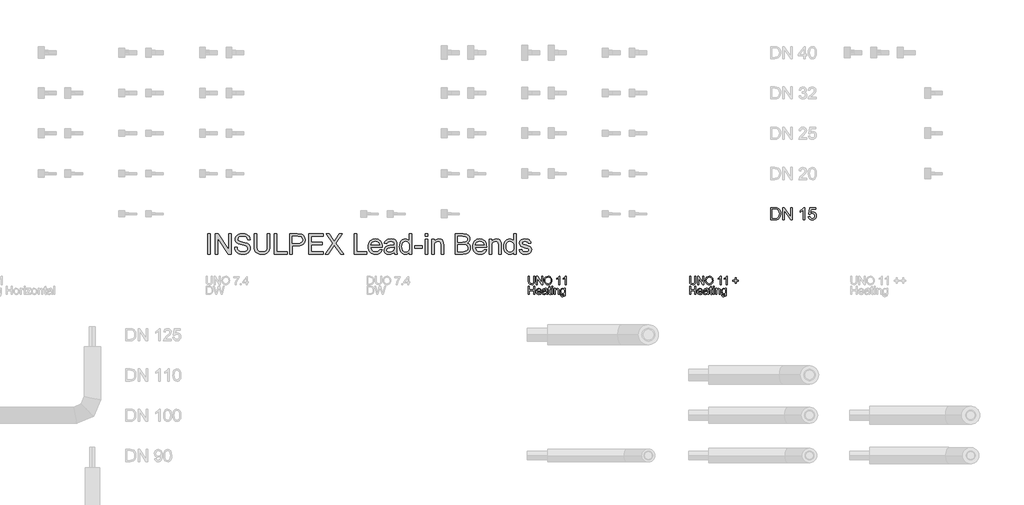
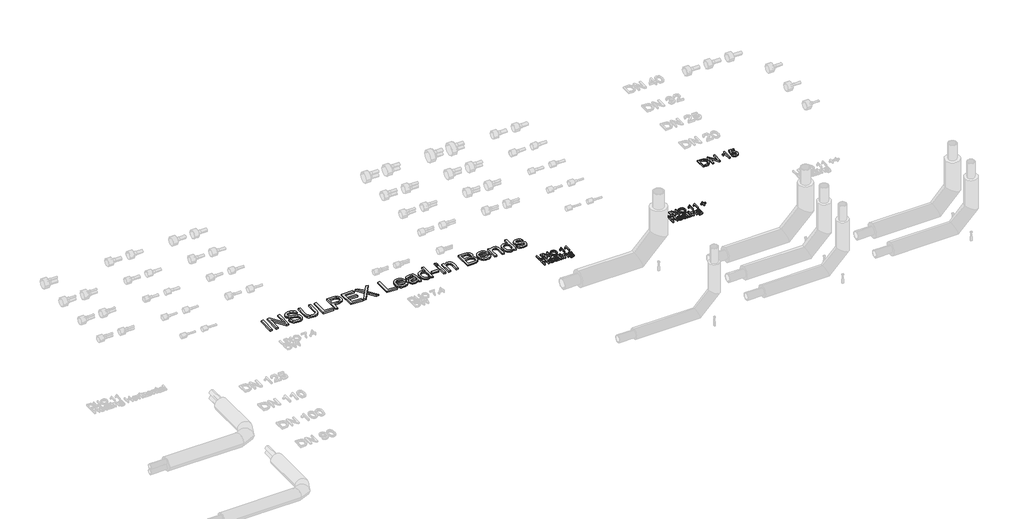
# One storey, part 21 of 44: 4 proxies.
"""IFC4 building model written with IfcOpenShell, lengths in millimetres."""

from ifc_helpers import new_model, si_unit, origin, origin_with_axes, place, context, project, spatial, polyline, outline, extrude, element, save

model = new_model("IFC4")

# Units and contexts
model_context = context("Model", 3, world=origin())
ifc_project = project(units=[si_unit("LENGTHUNIT", "METRE", prefix="MILLI")], contexts=[model_context])

# Site, building, storey
site = spatial("IfcSite", under=ifc_project)
building = spatial("IfcBuilding", under=site)
storey = spatial("IfcBuildingStorey", under=building, Name="REHAU Starting view", Elevation=0.0)

# Proxies
placement = place(None, origin())
element("IfcBuildingElementProxy", 1, Name="100", ObjectType="100", at=placement, inside=storey, context=model_context, shape_type="SweptSolid", body=[
    extrude(outline(polyline([(23076.9118625, 6222.431128), (23089.4689012, 6222.431128), (23089.4689012, 6164.477451), (23086.0598614, 6140.4547567), (23073.7726028, 6125.9847316), (23063.5086951, 6121.8000739), (23050.4734097, 6120.405188), (23027.529836, 6125.2612303), (23019.8901532, 6131.2055902), (23014.8011189, 6139.3265853), (23010.9874089, 6164.477451), (23010.9874089, 6222.431128), (23023.5444477, 6222.431128), (23023.5444477, 6164.9189094), (23026.0215198, 6145.7767829), (23034.5318566, 6136.2976902), (23049.2961874, 6132.9622268), (23062.067824, 6134.6115644), (23070.5597667, 6139.5595772), (23075.3238385, 6149.1980855), (23076.9118625, 6164.9189094), (23076.9118625, 6222.431128)])), origin_with_axes(), (0.0, 0.0, 1.0), 20.0),
    extrude(outline(polyline([(23111.4437191, 6121.9748178), (23111.4437191, 6222.431128), (23124.8836746, 6222.431128), (23177.3681726, 6142.8459897), (23177.3681726, 6222.431128), (23189.9252114, 6222.431128), (23189.9252114, 6121.9748178), (23176.4852558, 6121.9748178), (23124.0007578, 6201.5844816), (23124.0007578, 6121.9748178), (23111.4437191, 6121.9748178)])), origin_with_axes(), (0.0, 0.0, 1.0), 20.0),
    extrude(outline(polyline([(23207.1911397, 6170.8785977), (23210.5388658, 6193.0925389), (23220.5820443, 6209.8986147), (23235.9165921, 6220.4752221), (23255.1384264, 6224.0007578), (23268.3147332, 6222.3452889), (23280.1298766, 6217.3788819), (23289.9400631, 6209.4510249), (23297.1014993, 6198.9112058), (23301.479295, 6186.2683279), (23302.9385603, 6172.0312947), (23301.402653, 6157.6041891), (23296.794931, 6144.7835015), (23289.369846, 6134.2252883), (23279.3818499, 6126.5856055), (23267.667874, 6121.9502924), (23255.06485, 6120.405188), (23241.6862081, 6122.1127736), (23229.8036197, 6127.2355304), (23220.0179586, 6135.3105402), (23212.9300988, 6145.8748848), (23207.1911397, 6170.8785977)]), holes=[polyline([(23219.7481785, 6170.7559704), (23222.2589731, 6155.0412778), (23229.7913569, 6143.0667189), (23241.1129253, 6135.4883498), (23254.9912736, 6132.9622268), (23269.071957, 6135.5128753), (23280.4119195, 6143.1648208), (23287.889121, 6155.5072617), (23290.3815215, 6172.1293965), (23286.1140904, 6192.8534156), (23273.6428907, 6206.575414), (23255.2120028, 6211.4437191), (23241.7046022, 6209.0984714), (23230.2205526, 6202.0627282), (23222.366272, 6189.5455433), (23219.7481785, 6170.7559704)])]), origin_with_axes(), (0.0, 0.0, 1.0), 20.0),
    extrude(outline(polyline([(23401.8252406, 6121.9748178), (23389.2682018, 6121.9748178), (23389.2682018, 6200.2601064), (23377.3733507, 6191.7865578), (23364.1541243, 6185.4467247), (23364.1541243, 6197.3170505), (23382.5604868, 6209.0647488), (23393.7318367, 6222.431128), (23401.8252406, 6222.431128), (23401.8252406, 6121.9748178)])), origin_with_axes(), (0.0, 0.0, 1.0), 20.0),
    extrude(outline(polyline([(23478.7371031, 6121.9748178), (23466.1800643, 6121.9748178), (23466.1800643, 6200.2601064), (23454.2852131, 6191.7865578), (23441.0659868, 6185.4467247), (23441.0659868, 6197.3170505), (23459.4723492, 6209.0647488), (23470.6436992, 6222.431128), (23478.7371031, 6222.431128), (23478.7371031, 6121.9748178)])), origin_with_axes(), (0.0, 0.0, 1.0), 20.0),
    extrude(outline(polyline([(23010.9874089, 6000.0), (23010.9874089, 6100.4563101), (23023.5444477, 6100.4563101), (23023.5444477, 6059.6459342), (23076.9118625, 6059.6459342), (23076.9118625, 6100.4563101), (23089.4689012, 6100.4563101), (23089.4689012, 6000.0), (23076.9118625, 6000.0), (23076.9118625, 6047.0888954), (23023.5444477, 6047.0888954), (23023.5444477, 6000.0), (23010.9874089, 6000.0)])), origin_with_axes(), (0.0, 0.0, 1.0), 20.0),
    extrude(outline(polyline([(23161.5247213, 6021.9748178), (23173.8365055, 6020.405188), (23169.4004617, 6011.1284304), (23162.321799, 6004.1938547), (23152.7599328, 5999.8712413), (23140.8742787, 5998.4303702), (23126.1406048, 6000.9166393), (23114.803708, 6008.3754468), (23107.5748268, 6020.3224146), (23105.1651997, 6036.2731647), (23107.5993522, 6052.7604095), (23114.9018098, 6065.0905877), (23126.0854225, 6072.7793214), (23140.1630402, 6075.3422326), (23153.8022651, 6072.7854527), (23164.7007692, 6065.1151131), (23171.846877, 6052.8094604), (23174.2289129, 6036.3467411), (23174.1553365, 6032.9622268), (23117.7222385, 6032.9622268), (23119.8958079, 6023.5628418), (23124.9449883, 6016.6527916), (23132.2321175, 6012.4037546), (23141.1195333, 6010.9874089), (23153.4313175, 6013.6116338), (23161.5247213, 6021.9748178)]), holes=[polyline([(23117.7222385, 6045.5192655), (23161.6718741, 6045.5192655), (23156.6441535, 6056.8990819), (23149.3233018, 6061.3136659), (23140.1139892, 6062.7851938), (23124.6506827, 6058.088567), (23119.7854433, 6052.5979283), (23117.7222385, 6045.5192655)])]), origin_with_axes(), (0.0, 0.0, 1.0), 20.0),
    extrude(outline(polyline([(23233.8748471, 6009.4177791), (23221.697953, 6000.9074423), (23208.2457347, 5998.4303702), (23197.7519008, 5999.9202922), (23190.0110505, 6004.3900585), (23185.2377816, 6011.1774813), (23183.646692, 6019.6203731), (23186.0501877, 6029.5531869), (23192.3654953, 6036.7636741), (23201.157875, 6040.8839524), (23212.0226566, 6042.7724133), (23233.8012707, 6047.0888954), (23233.8748471, 6049.8847985), (23230.4167563, 6059.1554248), (23216.5353424, 6062.7851938), (23203.8311508, 6060.3694354), (23197.7733606, 6051.7977849), (23185.2163218, 6053.3674148), (23190.6487126, 6065.6301479), (23201.5870706, 6072.8161096), (23218.1540231, 6075.3422326), (23233.372075, 6073.1104152), (23241.968251, 6067.5063461), (23245.8187492, 6058.9837466), (23246.4318858, 6047.9963376), (23246.4318858, 6032.3736156), (23247.069548, 6010.5582133), (23249.5711455, 6000.0), (23237.0141068, 6000.0), (23233.8748471, 6009.4177791)]), holes=[polyline([(23233.8748471, 6034.5318566), (23213.6168119, 6030.6813584), (23202.8133439, 6028.6457447), (23197.9205134, 6025.3348067), (23196.2037308, 6020.5032899), (23199.9438644, 6013.7097357), (23210.9190106, 6010.9874089), (23223.6232021, 6013.9917785), (23231.8147079, 6021.2635793), (23233.8012707, 6030.975664), (23233.8748471, 6034.5318566)])]), origin_with_axes(), (0.0, 0.0, 1.0), 20.0),
    extrude(outline(polyline([(23290.3815215, 6010.4723741), (23291.9511514, 5999.632118), (23282.5578978, 5998.4303702), (23272.0364727, 6000.5150348), (23266.7880229, 6005.9842138), (23265.267444, 6020.2335097), (23265.267444, 6061.215564), (23255.8496649, 6061.215564), (23255.8496649, 6073.7726028), (23265.267444, 6073.7726028), (23265.267444, 6091.7007187), (23277.8244828, 6099.082884), (23277.8244828, 6073.7726028), (23290.3815215, 6073.7726028), (23290.3815215, 6061.215564), (23277.8244828, 6061.215564), (23277.8244828, 6020.6013917), (23278.4866703, 6014.1266686), (23280.6326487, 6011.8335375), (23284.9123425, 6010.9874089), (23290.3815215, 6010.4723741)])), origin_with_axes(), (0.0, 0.0, 1.0), 20.0),
    extrude(outline(polyline([(23302.9385603, 6087.8992714), (23302.9385603, 6100.4563101), (23315.4955991, 6100.4563101), (23315.4955991, 6087.8992714), (23302.9385603, 6087.8992714)])), origin_with_axes(), (0.0, 0.0, 1.0), 20.0),
    extrude(outline(polyline([(23302.9385603, 6000.0), (23302.9385603, 6073.7726028), (23315.4955991, 6073.7726028), (23315.4955991, 6000.0), (23302.9385603, 6000.0)])), origin_with_axes(), (0.0, 0.0, 1.0), 20.0),
    extrude(outline(polyline([(23334.3311572, 6000.0), (23334.3311572, 6073.7726028), (23346.888196, 6073.7726028), (23346.888196, 6063.4719069), (23356.4899161, 6072.3746512), (23369.5987778, 6075.3422326), (23381.4568408, 6072.9509996), (23389.5502447, 6066.6724803), (23393.3149038, 6057.4386422), (23393.9770914, 6045.2985363), (23393.9770914, 6000.0), (23381.4200526, 6000.0), (23381.4200526, 6043.6062792), (23379.9730501, 6054.7163154), (23374.8594904, 6060.5901646), (23366.2387889, 6062.7851938), (23352.6148924, 6057.8555751), (23348.3198701, 6050.712533), (23346.888196, 6039.1426443), (23346.888196, 6000.0), (23334.3311572, 6000.0)])), origin_with_axes(), (0.0, 0.0, 1.0), 20.0),
    extrude(outline(polyline([(23408.10376, 5993.7214806), (23420.6607988, 5992.1518508), (23424.7320262, 5985.5299749), (23436.9211829, 5982.7340717), (23449.7725273, 5985.8978569), (23455.9038939, 5994.7760757), (23456.7622852, 6009.4177791), (23447.9208546, 6002.3544448), (23437.1419121, 6000.0), (23424.1955316, 6002.7407209), (23414.5416949, 6010.9628835), (23408.5360213, 6023.0171502), (23406.5341301, 6037.2541834), (23410.127111, 6056.7151409), (23420.5259087, 6070.4861903), (23436.5287755, 6075.3422326), (23447.7307822, 6072.5953804), (23456.7622852, 6064.3548237), (23456.7622852, 6073.7726028), (23469.319324, 6073.7726028), (23469.319324, 6010.0799667), (23465.8857587, 5985.6893904), (23455.0087144, 5974.3463622), (23436.6759283, 5970.1770329), (23424.9926092, 5971.6454952), (23415.7924937, 5976.0508821), (23409.8910533, 5983.4054563), (23408.10376, 5993.7214806)]), holes=[polyline([(23419.0911689, 6038.1125747), (23420.4308725, 6026.5948026), (23424.4499833, 6018.6761426), (23430.4924451, 6014.0868147), (23437.9022016, 6012.5570388), (23445.2567758, 6014.0776177), (23451.3298944, 6018.6393544), (23455.4041875, 6026.4568468), (23456.7622852, 6037.7446927), (23455.3643336, 6048.6309341), (23451.1704789, 6056.4698863), (23445.0084555, 6061.2063669), (23437.7059979, 6062.7851938), (23430.5353646, 6061.2308924), (23424.5235597, 6056.5679881), (23420.4492666, 6048.8455319), (23419.0911689, 6038.1125747)])]), origin_with_axes(), (0.0, 0.0, 1.0), 20.0),
])
element("IfcBuildingElementProxy", 2, Name="100", ObjectType="100", at=placement, inside=storey, context=model_context, shape_type="SweptSolid", body=[
    extrude(outline(polyline([(25076.9118625, 6222.431128), (25089.4689012, 6222.431128), (25089.4689012, 6164.477451), (25086.0598614, 6140.4547567), (25073.7726028, 6125.9847316), (25063.5086951, 6121.8000739), (25050.4734097, 6120.405188), (25027.529836, 6125.2612303), (25019.8901532, 6131.2055902), (25014.8011189, 6139.3265853), (25010.9874089, 6164.477451), (25010.9874089, 6222.431128), (25023.5444477, 6222.431128), (25023.5444477, 6164.9189094), (25026.0215198, 6145.7767829), (25034.5318566, 6136.2976902), (25049.2961874, 6132.9622268), (25062.067824, 6134.6115644), (25070.5597667, 6139.5595772), (25075.3238385, 6149.1980855), (25076.9118625, 6164.9189094), (25076.9118625, 6222.431128)])), origin_with_axes(), (0.0, 0.0, 1.0), 20.0),
    extrude(outline(polyline([(25111.4437191, 6121.9748178), (25111.4437191, 6222.431128), (25124.8836746, 6222.431128), (25177.3681726, 6142.8459897), (25177.3681726, 6222.431128), (25189.9252114, 6222.431128), (25189.9252114, 6121.9748178), (25176.4852558, 6121.9748178), (25124.0007578, 6201.5844816), (25124.0007578, 6121.9748178), (25111.4437191, 6121.9748178)])), origin_with_axes(), (0.0, 0.0, 1.0), 20.0),
    extrude(outline(polyline([(25207.1911397, 6170.8785977), (25210.5388658, 6193.0925389), (25220.5820443, 6209.8986147), (25235.9165921, 6220.4752221), (25255.1384264, 6224.0007578), (25268.3147332, 6222.3452889), (25280.1298766, 6217.3788819), (25289.9400631, 6209.4510249), (25297.1014993, 6198.9112058), (25301.479295, 6186.2683279), (25302.9385603, 6172.0312947), (25301.402653, 6157.6041891), (25296.794931, 6144.7835015), (25289.369846, 6134.2252883), (25279.3818499, 6126.5856055), (25267.667874, 6121.9502924), (25255.06485, 6120.405188), (25241.6862081, 6122.1127736), (25229.8036197, 6127.2355304), (25220.0179586, 6135.3105402), (25212.9300988, 6145.8748848), (25207.1911397, 6170.8785977)]), holes=[polyline([(25219.7481785, 6170.7559704), (25222.2589731, 6155.0412778), (25229.7913569, 6143.0667189), (25241.1129253, 6135.4883498), (25254.9912736, 6132.9622268), (25269.071957, 6135.5128753), (25280.4119195, 6143.1648208), (25287.889121, 6155.5072617), (25290.3815215, 6172.1293965), (25286.1140904, 6192.8534156), (25273.6428907, 6206.575414), (25255.2120028, 6211.4437191), (25241.7046022, 6209.0984714), (25230.2205526, 6202.0627282), (25222.366272, 6189.5455433), (25219.7481785, 6170.7559704)])]), origin_with_axes(), (0.0, 0.0, 1.0), 20.0),
    extrude(outline(polyline([(25401.8252406, 6121.9748178), (25389.2682018, 6121.9748178), (25389.2682018, 6200.2601064), (25377.3733507, 6191.7865578), (25364.1541243, 6185.4467247), (25364.1541243, 6197.3170505), (25382.5604868, 6209.0647488), (25393.7318367, 6222.431128), (25401.8252406, 6222.431128), (25401.8252406, 6121.9748178)])), origin_with_axes(), (0.0, 0.0, 1.0), 20.0),
    extrude(outline(polyline([(25478.7371031, 6121.9748178), (25466.1800643, 6121.9748178), (25466.1800643, 6200.2601064), (25454.2852131, 6191.7865578), (25441.0659868, 6185.4467247), (25441.0659868, 6197.3170505), (25459.4723492, 6209.0647488), (25470.6436992, 6222.431128), (25478.7371031, 6222.431128), (25478.7371031, 6121.9748178)])), origin_with_axes(), (0.0, 0.0, 1.0), 20.0),
    extrude(outline(polyline([(25576.0541535, 6137.6711163), (25576.0541535, 6164.3548237), (25549.3704461, 6164.3548237), (25549.3704461, 6176.9118625), (25576.0541535, 6176.9118625), (25576.0541535, 6203.5955698), (25588.6111923, 6203.5955698), (25588.6111923, 6176.9118625), (25615.2948997, 6176.9118625), (25615.2948997, 6164.3548237), (25588.6111923, 6164.3548237), (25588.6111923, 6137.6711163), (25576.0541535, 6137.6711163)])), origin_with_axes(), (0.0, 0.0, 1.0), 20.0),
    extrude(outline(polyline([(25010.9874089, 6000.0), (25010.9874089, 6100.4563101), (25023.5444477, 6100.4563101), (25023.5444477, 6059.6459342), (25076.9118625, 6059.6459342), (25076.9118625, 6100.4563101), (25089.4689012, 6100.4563101), (25089.4689012, 6000.0), (25076.9118625, 6000.0), (25076.9118625, 6047.0888954), (25023.5444477, 6047.0888954), (25023.5444477, 6000.0), (25010.9874089, 6000.0)])), origin_with_axes(), (0.0, 0.0, 1.0), 20.0),
    extrude(outline(polyline([(25161.5247213, 6021.9748178), (25173.8365055, 6020.405188), (25169.4004617, 6011.1284304), (25162.321799, 6004.1938547), (25152.7599328, 5999.8712413), (25140.8742787, 5998.4303702), (25126.1406048, 6000.9166393), (25114.803708, 6008.3754468), (25107.5748268, 6020.3224146), (25105.1651997, 6036.2731647), (25107.5993522, 6052.7604095), (25114.9018098, 6065.0905877), (25126.0854225, 6072.7793214), (25140.1630402, 6075.3422326), (25153.8022651, 6072.7854527), (25164.7007692, 6065.1151131), (25171.846877, 6052.8094604), (25174.2289129, 6036.3467411), (25174.1553365, 6032.9622268), (25117.7222385, 6032.9622268), (25119.8958079, 6023.5628418), (25124.9449883, 6016.6527916), (25132.2321175, 6012.4037546), (25141.1195333, 6010.9874089), (25153.4313175, 6013.6116338), (25161.5247213, 6021.9748178)]), holes=[polyline([(25117.7222385, 6045.5192655), (25161.6718741, 6045.5192655), (25156.6441535, 6056.8990819), (25149.3233018, 6061.3136659), (25140.1139892, 6062.7851938), (25124.6506827, 6058.088567), (25119.7854433, 6052.5979283), (25117.7222385, 6045.5192655)])]), origin_with_axes(), (0.0, 0.0, 1.0), 20.0),
    extrude(outline(polyline([(25233.8748471, 6009.4177791), (25221.697953, 6000.9074423), (25208.2457347, 5998.4303702), (25197.7519008, 5999.9202922), (25190.0110505, 6004.3900585), (25185.2377816, 6011.1774813), (25183.646692, 6019.6203731), (25186.0501877, 6029.5531869), (25192.3654953, 6036.7636741), (25201.157875, 6040.8839524), (25212.0226566, 6042.7724133), (25233.8012707, 6047.0888954), (25233.8748471, 6049.8847985), (25230.4167563, 6059.1554248), (25216.5353424, 6062.7851938), (25203.8311508, 6060.3694354), (25197.7733606, 6051.7977849), (25185.2163218, 6053.3674148), (25190.6487126, 6065.6301479), (25201.5870706, 6072.8161096), (25218.1540231, 6075.3422326), (25233.372075, 6073.1104152), (25241.968251, 6067.5063461), (25245.8187492, 6058.9837466), (25246.4318858, 6047.9963376), (25246.4318858, 6032.3736156), (25247.069548, 6010.5582133), (25249.5711455, 6000.0), (25237.0141068, 6000.0), (25233.8748471, 6009.4177791)]), holes=[polyline([(25233.8748471, 6034.5318566), (25213.6168119, 6030.6813584), (25202.8133439, 6028.6457447), (25197.9205134, 6025.3348067), (25196.2037308, 6020.5032899), (25199.9438644, 6013.7097357), (25210.9190106, 6010.9874089), (25223.6232021, 6013.9917785), (25231.8147079, 6021.2635793), (25233.8012707, 6030.975664), (25233.8748471, 6034.5318566)])]), origin_with_axes(), (0.0, 0.0, 1.0), 20.0),
    extrude(outline(polyline([(25290.3815215, 6010.4723741), (25291.9511514, 5999.632118), (25282.5578978, 5998.4303702), (25272.0364727, 6000.5150348), (25266.7880229, 6005.9842138), (25265.267444, 6020.2335097), (25265.267444, 6061.215564), (25255.8496649, 6061.215564), (25255.8496649, 6073.7726028), (25265.267444, 6073.7726028), (25265.267444, 6091.7007187), (25277.8244828, 6099.082884), (25277.8244828, 6073.7726028), (25290.3815215, 6073.7726028), (25290.3815215, 6061.215564), (25277.8244828, 6061.215564), (25277.8244828, 6020.6013917), (25278.4866703, 6014.1266686), (25280.6326487, 6011.8335375), (25284.9123425, 6010.9874089), (25290.3815215, 6010.4723741)])), origin_with_axes(), (0.0, 0.0, 1.0), 20.0),
    extrude(outline(polyline([(25302.9385603, 6087.8992714), (25302.9385603, 6100.4563101), (25315.4955991, 6100.4563101), (25315.4955991, 6087.8992714), (25302.9385603, 6087.8992714)])), origin_with_axes(), (0.0, 0.0, 1.0), 20.0),
    extrude(outline(polyline([(25302.9385603, 6000.0), (25302.9385603, 6073.7726028), (25315.4955991, 6073.7726028), (25315.4955991, 6000.0), (25302.9385603, 6000.0)])), origin_with_axes(), (0.0, 0.0, 1.0), 20.0),
    extrude(outline(polyline([(25334.3311572, 6000.0), (25334.3311572, 6073.7726028), (25346.888196, 6073.7726028), (25346.888196, 6063.4719069), (25356.4899161, 6072.3746512), (25369.5987778, 6075.3422326), (25381.4568408, 6072.9509996), (25389.5502447, 6066.6724803), (25393.3149038, 6057.4386422), (25393.9770914, 6045.2985363), (25393.9770914, 6000.0), (25381.4200526, 6000.0), (25381.4200526, 6043.6062792), (25379.9730501, 6054.7163154), (25374.8594904, 6060.5901646), (25366.2387889, 6062.7851938), (25352.6148924, 6057.8555751), (25348.3198701, 6050.712533), (25346.888196, 6039.1426443), (25346.888196, 6000.0), (25334.3311572, 6000.0)])), origin_with_axes(), (0.0, 0.0, 1.0), 20.0),
    extrude(outline(polyline([(25408.10376, 5993.7214806), (25420.6607988, 5992.1518508), (25424.7320262, 5985.5299749), (25436.9211829, 5982.7340717), (25449.7725273, 5985.8978569), (25455.9038939, 5994.7760757), (25456.7622852, 6009.4177791), (25447.9208546, 6002.3544448), (25437.1419121, 6000.0), (25424.1955316, 6002.7407209), (25414.5416949, 6010.9628835), (25408.5360213, 6023.0171502), (25406.5341301, 6037.2541834), (25410.127111, 6056.7151409), (25420.5259087, 6070.4861903), (25436.5287755, 6075.3422326), (25447.7307822, 6072.5953804), (25456.7622852, 6064.3548237), (25456.7622852, 6073.7726028), (25469.319324, 6073.7726028), (25469.319324, 6010.0799667), (25465.8857587, 5985.6893904), (25455.0087144, 5974.3463622), (25436.6759283, 5970.1770329), (25424.9926092, 5971.6454952), (25415.7924937, 5976.0508821), (25409.8910533, 5983.4054563), (25408.10376, 5993.7214806)]), holes=[polyline([(25419.0911689, 6038.1125747), (25420.4308725, 6026.5948026), (25424.4499833, 6018.6761426), (25430.4924451, 6014.0868147), (25437.9022016, 6012.5570388), (25445.2567758, 6014.0776177), (25451.3298944, 6018.6393544), (25455.4041875, 6026.4568468), (25456.7622852, 6037.7446927), (25455.3643336, 6048.6309341), (25451.1704789, 6056.4698863), (25445.0084555, 6061.2063669), (25437.7059979, 6062.7851938), (25430.5353646, 6061.2308924), (25424.5235597, 6056.5679881), (25420.4492666, 6048.8455319), (25419.0911689, 6038.1125747)])]), origin_with_axes(), (0.0, 0.0, 1.0), 20.0),
])
element("IfcBuildingElementProxy", 3, Name="150", ObjectType="150", at=placement, inside=storey, context=model_context, shape_type="SweptSolid", body=[
    extrude(outline(polyline([(26016.4811134, 6925.0), (26016.4811134, 7075.6844652), (26068.4628393, 7075.6844652), (26095.3550131, 7073.5139615), (26117.5015093, 7062.735019), (26127.9217668, 7051.2571007), (26135.343786, 7036.9832793), (26139.7859611, 7020.1894663), (26141.2666861, 7001.151573), (26137.2567724, 6970.7461261), (26126.9560765, 6948.8019651), (26113.1972899, 6935.135149), (26095.1894663, 6927.575174), (26070.9644369, 6925.0), (26016.4811134, 6925.0)]), holes=[polyline([(26035.3166715, 6943.8355582), (26068.6467803, 6943.8355582), (26092.8902038, 6946.5578849), (26106.8697196, 6954.2466186), (26118.3292437, 6972.9534181), (26122.431128, 7001.4458786), (26120.4215726, 7021.9736939), (26114.3929064, 7037.1304321), (26105.4855636, 7047.5414926), (26094.8399784, 7053.8322747), (26068.1317455, 7056.8489071), (26035.3166715, 7056.8489071), (26035.3166715, 6943.8355582)])]), origin_with_axes(), (0.0, 0.0, 1.0), 20.0),
    extrude(outline(polyline([(26167.1655786, 6925.0), (26167.1655786, 7075.6844652), (26187.3255119, 7075.6844652), (26266.0522589, 6956.3067578), (26266.0522589, 7075.6844652), (26284.8878171, 7075.6844652), (26284.8878171, 6925.0), (26264.7278837, 6925.0), (26186.0011368, 7044.4144956), (26186.0011368, 6925.0), (26167.1655786, 6925.0)])), origin_with_axes(), (0.0, 0.0, 1.0), 20.0),
    extrude(outline(polyline([(26440.2811718, 6925.0), (26421.4456137, 6925.0), (26421.4456137, 7042.4279329), (26403.6033369, 7029.7176099), (26383.7744974, 7020.2078604), (26383.7744974, 7038.0133489), (26411.3840411, 7055.6348965), (26428.141066, 7075.6844652), (26440.2811718, 7075.6844652), (26440.2811718, 6925.0)])), origin_with_axes(), (0.0, 0.0, 1.0), 20.0),
    extrude(outline(polyline([(26485.0156224, 6965.0255611), (26503.8511806, 6967.3800058), (26507.3092713, 6956.072233), (26513.3425361, 6947.9742306), (26521.9233836, 6943.1043927), (26533.0242228, 6941.4811134), (26546.525492, 6943.7389891), (26556.6422469, 6950.5126164), (26562.9606202, 6961.0202459), (26565.0667446, 6974.4801284), (26563.0939774, 6987.1536631), (26557.1756758, 6996.8473537), (26547.2658545, 7003.00018), (26533.3185284, 7005.0511222), (26516.7822327, 7001.7769724), (26506.2056254, 6993.2788983), (26487.3700672, 6995.6333431), (26503.8511806, 7073.3300205), (26576.8389684, 7073.3300205), (26576.8389684, 7054.4944623), (26519.0814952, 7054.4944623), (26511.0248795, 7012.9973732), (26524.4801635, 7021.1643535), (26538.5792409, 7023.8866803), (26556.1777959, 7020.511363), (26570.7873096, 7010.3854111), (26580.6235545, 6994.9527614), (26583.9023027, 6975.6573507), (26580.9500497, 6956.8217926), (26572.0932907, 6940.7085612), (26555.1339307, 6927.1613067), (26532.9506464, 6922.6455552), (26514.4507806, 6925.5472245), (26499.7125081, 6934.2522322), (26489.6095489, 6947.7489029), (26485.0156224, 6965.0255611)])), origin_with_axes(), (0.0, 0.0, 1.0), 20.0),
])
element("IfcBuildingElementProxy", 4, Name="250", ObjectType="250", at=placement, inside=storey, context=model_context, shape_type="SweptSolid", body=[
    extrude(outline(polyline([(19031.3925969, 6500.0), (19031.3925969, 6751.1407754), (19062.7851938, 6751.1407754), (19062.7851938, 6500.0), (19031.3925969, 6500.0)])), origin_with_axes(), (0.0, 0.0, 1.0), 20.0),
    extrude(outline(polyline([(19125.5703877, 6500.0), (19125.5703877, 6751.1407754), (19159.1702766, 6751.1407754), (19290.3815215, 6552.1779296), (19290.3815215, 6751.1407754), (19321.7741184, 6751.1407754), (19321.7741184, 6500.0), (19288.1742296, 6500.0), (19156.9629846, 6699.0241594), (19156.9629846, 6500.0), (19125.5703877, 6500.0)])), origin_with_axes(), (0.0, 0.0, 1.0), 20.0),
    extrude(outline(polyline([(19364.9389392, 6586.3296415), (19396.3315361, 6586.3296415), (19399.933714, 6568.9088962), (19406.448291, 6554.9063878), (19416.6110311, 6543.7932858), (19431.1576983, 6535.04076), (19448.9386614, 6529.3615817), (19468.8042892, 6527.4685223), (19486.2940124, 6528.9017292), (19501.6071004, 6533.2013501), (19514.0154536, 6540.007167), (19522.790972, 6548.9589622), (19528.0102978, 6559.2366654), (19529.7500731, 6570.0202064), (19524.5384115, 6589.6099227), (19516.5982917, 6597.3584372), (19503.2012557, 6603.86535), (19457.4919178, 6615.8521716), (19408.287701, 6631.3338723), (19392.6603804, 6641.8951512), (19381.5855995, 6654.694379), (19374.9867162, 6669.455644), (19372.7870884, 6685.9030349), (19375.5078824, 6704.2894704), (19383.6702641, 6721.4343043), (19397.0596359, 6735.9656431), (19415.4613999, 6746.5115936), (19437.549648, 6752.9265359), (19461.9984723, 6755.06485), (19488.4859759, 6752.8269012), (19511.6625416, 6746.1130548), (19530.7004349, 6735.0612665), (19544.7719212, 6719.8094921), (19553.6777312, 6701.3080934), (19557.2185954, 6680.5074323), (19525.8259984, 6680.5074323), (19520.0625138, 6699.2387572), (19508.0450353, 6712.7584205), (19489.2677252, 6720.9437949), (19463.2247456, 6723.6722531), (19436.5686294, 6720.9744518), (19418.2818285, 6712.8810479), (19407.7052212, 6700.9708683), (19404.1796854, 6686.8227399), (19406.6782173, 6674.7592761), (19414.1738129, 6665.0563885), (19431.8934623, 6656.3805048), (19465.4320376, 6647.5206801), (19520.9822188, 6631.7630679), (19538.8781451, 6620.3740545), (19551.3631403, 6606.3178966), (19558.6977876, 6589.7478784), (19561.14267, 6570.8172841), (19558.3299056, 6551.4651583), (19549.8916123, 6533.2626637), (19536.1726796, 6517.5970221), (19517.5179967, 6505.8554551), (19495.0848592, 6498.5208078), (19470.0305625, 6496.0759254), (19439.2740949, 6498.712413), (19413.9592151, 6506.6218759), (19393.7946832, 6519.8349709), (19378.4892594, 6538.3823548), (19368.6637444, 6560.9764407), (19364.9389392, 6586.3296415)])), origin_with_axes(), (0.0, 0.0, 1.0), 20.0),
    extrude(outline(polyline([(19773.0426992, 6751.1407754), (19804.4352961, 6751.1407754), (19804.4352961, 6606.2565829), (19802.3046462, 6572.3271331), (19795.9126966, 6546.1998472), (19783.9718601, 6526.0429796), (19765.19455, 6510.0247844), (19739.5347808, 6499.5631401), (19706.9465674, 6496.0759254), (19675.0711254, 6499.1109518), (19649.587633, 6508.2160312), (19630.4884261, 6523.076931), (19617.7658404, 6543.3794186), (19610.6151341, 6570.6103504), (19608.2315654, 6606.2565829), (19608.2315654, 6751.1407754), (19639.6241623, 6751.1407754), (19639.6241623, 6607.3602289), (19641.1723323, 6579.1482784), (19645.8168425, 6559.5049127), (19654.2321432, 6545.9009431), (19667.0926846, 6535.8071809), (19683.8619722, 6529.5531869), (19704.0035114, 6527.4685223), (19735.9326029, 6531.5918663), (19757.1624597, 6543.9618984), (19764.1100645, 6554.1093101), (19769.0726393, 6568.0581691), (19773.0426992, 6607.3602289), (19773.0426992, 6751.1407754)])), origin_with_axes(), (0.0, 0.0, 1.0), 20.0),
    extrude(outline(polyline([(19859.3723407, 6500.0), (19859.3723407, 6751.1407754), (19890.7649377, 6751.1407754), (19890.7649377, 6531.3925969), (20016.3353253, 6531.3925969), (20016.3353253, 6500.0), (19859.3723407, 6500.0)])), origin_with_axes(), (0.0, 0.0, 1.0), 20.0),
    extrude(outline(polyline([(20051.6519969, 6500.0), (20051.6519969, 6751.1407754), (20144.7261417, 6751.1407754), (20182.2501052, 6748.7495424), (20198.9810717, 6744.281309), (20212.7536539, 6737.0079754), (20223.8437632, 6726.5999806), (20232.5273112, 6712.7277637), (20238.1375116, 6696.3646791), (20240.0075784, 6678.4840813), (20234.9568652, 6648.8849091), (20219.8047255, 6624.221487), (20207.6703678, 6614.5109352), (20191.4701477, 6607.5748268), (20171.2040651, 6603.4131617), (20146.87212, 6602.02594), (20083.0445938, 6602.02594), (20083.0445938, 6500.0), (20051.6519969, 6500.0)]), holes=[polyline([(20083.0445938, 6633.4185369), (20148.7115299, 6633.4185369), (20176.5479342, 6636.3002792), (20194.942034, 6644.9455061), (20205.1967446, 6658.817723), (20208.6149815, 6677.3804353), (20206.5992947, 6691.4825785), (20200.5522344, 6703.3774297), (20191.224893, 6712.3292249), (20179.3683629, 6717.6022001), (20147.9757659, 6719.7481785), (20083.0445938, 6719.7481785), (20083.0445938, 6633.4185369)])]), origin_with_axes(), (0.0, 0.0, 1.0), 20.0),
    extrude(outline(polyline([(20283.1723992, 6500.0), (20283.1723992, 6751.1407754), (20463.6798315, 6751.1407754), (20463.6798315, 6719.7481785), (20314.5649961, 6719.7481785), (20314.5649961, 6645.1907608), (20455.8316822, 6645.1907608), (20455.8316822, 6613.7981638), (20314.5649961, 6613.7981638), (20314.5649961, 6531.3925969), (20467.6039061, 6531.3925969), (20467.6039061, 6500.0), (20283.1723992, 6500.0)])), origin_with_axes(), (0.0, 0.0, 1.0), 20.0),
    extrude(outline(polyline([(20487.2242792, 6500.0), (20584.0385576, 6636.8521022), (20502.9205776, 6751.1407754), (20540.5671685, 6751.1407754), (20586.2458495, 6686.8227399), (20601.6355797, 6661.7454505), (20619.6617974, 6687.2519355), (20664.8499692, 6751.1407754), (20703.048383, 6751.1407754), (20621.9304031, 6636.4842202), (20718.7446815, 6500.0), (20681.0980906, 6500.0), (20616.5961141, 6590.9894801), (20603.1684213, 6609.8740892), (20588.3918278, 6589.1500702), (20525.422693, 6500.0), (20487.2242792, 6500.0)])), origin_with_axes(), (0.0, 0.0, 1.0), 20.0),
    extrude(outline(polyline([(20848.2391438, 6500.0), (20848.2391438, 6751.1407754), (20879.6317407, 6751.1407754), (20879.6317407, 6531.3925969), (21005.2021284, 6531.3925969), (21005.2021284, 6500.0), (20848.2391438, 6500.0)])), origin_with_axes(), (0.0, 0.0, 1.0), 20.0),
    extrude(outline(polyline([(21165.7213056, 6554.9370446), (21196.5007659, 6551.01297), (21185.4106566, 6527.8210759), (21167.7139997, 6510.4846369), (21143.8093343, 6499.6781033), (21114.0951989, 6496.0759254), (21094.6166137, 6497.6298436), (21077.2610142, 6502.2915983), (21062.0284003, 6510.0611894), (21048.9187721, 6520.9386169), (21038.3766537, 6534.6211446), (21030.8465691, 6550.8060364), (21026.3285184, 6569.4932921), (21024.8225015, 6590.6829118), (21026.3438468, 6612.591051), (21030.9078828, 6631.9010237), (21038.5146095, 6648.6128297), (21049.1640268, 6662.7264692), (21062.239166, 6673.9392058), (21077.1230584, 6681.9483034), (21093.815704, 6686.753762), (21112.3171026, 6688.3555815), (21130.2226091, 6686.7575941), (21146.4151651, 6681.9636319), (21160.8947705, 6673.9736948), (21173.6614253, 6662.7877829), (21184.0828325, 6648.7048002), (21191.5266947, 6632.023651), (21195.9930121, 6612.7443352), (21197.4817845, 6590.8668528), (21197.2978435, 6582.4055669), (21056.2150984, 6582.4055669), (21061.649022, 6558.9071045), (21074.271973, 6541.6319791), (21092.4897959, 6531.0093865), (21114.7083356, 6527.4685223), (21131.4163096, 6529.1086629), (21145.4877959, 6534.0290846), (21156.9227946, 6542.5363557), (21165.7213056, 6554.9370446)]), holes=[polyline([(21056.2150984, 6613.7981638), (21166.0891876, 6613.7981638), (21161.8432162, 6630.3835105), (21153.5198861, 6642.2477048), (21135.2177568, 6653.2841647), (21112.1944753, 6656.9629846), (21091.0335964, 6654.0275929), (21073.536209, 6645.2214176), (21061.3731105, 6631.4948207), (21056.2150984, 6613.7981638)])]), origin_with_axes(), (0.0, 0.0, 1.0), 20.0),
    extrude(outline(polyline([(21346.5966199, 6523.5444477), (21331.5977644, 6510.6839063), (21316.1543848, 6502.2686056), (21299.9139276, 6497.6240954), (21282.5238391, 6496.0759254), (21256.2892543, 6499.8007306), (21236.9371285, 6510.9751462), (21225.0039563, 6527.9437032), (21221.0262322, 6549.0509327), (21222.528417, 6562.0647583), (21227.0349715, 6573.8829674), (21242.8232404, 6591.9091851), (21264.8041896, 6602.209881), (21291.9661436, 6606.9310333), (21346.4126789, 6617.7222385), (21346.5966199, 6624.7119964), (21344.4353132, 6638.722169), (21337.951393, 6647.8885621), (21323.450711, 6654.694379), (21303.2478581, 6656.9629846), (21284.54719, 6655.4531356), (21271.4873792, 6650.9235885), (21262.5815693, 6642.5466089), (21256.3429038, 6629.4944623), (21224.9503068, 6633.4185369), (21230.3995589, 6650.5863634), (21238.5312838, 6664.0753698), (21250.1042382, 6674.3913941), (21265.8771788, 6682.0402739), (21285.1679909, 6686.7767546), (21307.2945601, 6688.3555815), (21328.5167527, 6686.9606956), (21345.3396898, 6682.7760379), (21358.0239544, 6676.483723), (21366.8301296, 6668.7658653), (21376.4563752, 6647.4593664), (21377.9892168, 6619.9908441), (21377.9892168, 6580.9340389), (21379.5833721, 6526.3955332), (21385.8373661, 6500.0), (21354.4447691, 6500.0), (21346.5966199, 6523.5444477)]), holes=[polyline([(21346.5966199, 6586.3296415), (21295.9515319, 6576.703396), (21268.9428621, 6571.6143617), (21256.7107857, 6563.3370168), (21252.4188291, 6551.2582247), (21254.7564126, 6541.923219), (21261.7691632, 6534.2743392), (21273.3037966, 6529.1699765), (21289.2070287, 6527.4685223), (21306.0682868, 6529.3462533), (21320.9675076, 6534.9794464), (21333.0462997, 6543.2797839), (21341.446272, 6553.1589483), (21345.1710772, 6563.3370168), (21346.4126789, 6577.43916), (21346.5966199, 6586.3296415)])]), origin_with_axes(), (0.0, 0.0, 1.0), 20.0),
    extrude(outline(polyline([(21534.9522014, 6500.0), (21534.9522014, 6529.6145006), (21525.5597142, 6514.9413739), (21514.1821971, 6504.4605692), (21500.8196501, 6498.1720863), (21485.4720731, 6496.0759254), (21465.1772497, 6499.1109518), (21446.5992089, 6508.2160312), (21430.8722536, 6522.7550342), (21419.1306866, 6542.0918316), (21411.819032, 6565.4446741), (21409.3818137, 6592.0318125), (21411.6274268, 6618.2893899), (21418.3642658, 6642.0024501), (21429.5846666, 6661.8220926), (21445.2809651, 6676.3994167), (21464.2652089, 6685.3665403), (21485.3494457, 6688.3555815), (21500.708519, 6686.2172674), (21514.289496, 6679.8023251), (21525.8011368, 6669.969146), (21534.9522014, 6657.5761213), (21534.9522014, 6751.1407754), (21566.3447984, 6751.1407754), (21566.3447984, 6500.0), (21534.9522014, 6500.0)]), holes=[polyline([(21440.7744107, 6592.1544398), (21444.3152749, 6563.7585483), (21454.9378675, 6543.5633596), (21470.3735829, 6531.4922316), (21488.3538154, 6527.4685223), (21506.3263837, 6531.3082906), (21521.3712244, 6542.8275956), (21531.5569572, 6562.2410351), (21534.9522014, 6589.7632068), (21531.4956435, 6619.8528883), (21521.1259698, 6640.7148632), (21505.6979186, 6652.9009542), (21487.0662284, 6656.9629846), (21468.9020549, 6653.0619026), (21454.0181625, 6641.3586566), (21444.0853486, 6621.2554385), (21440.7744107, 6592.1544398)])]), origin_with_axes(), (0.0, 0.0, 1.0), 20.0),
    extrude(outline(polyline([(21597.7373953, 6574.5574177), (21597.7373953, 6605.9500146), (21695.8392607, 6605.9500146), (21695.8392607, 6574.5574177), (21597.7373953, 6574.5574177)])), origin_with_axes(), (0.0, 0.0, 1.0), 20.0),
    extrude(outline(polyline([(21731.1559322, 6719.7481785), (21731.1559322, 6751.1407754), (21762.5485291, 6751.1407754), (21762.5485291, 6719.7481785), (21731.1559322, 6719.7481785)])), origin_with_axes(), (0.0, 0.0, 1.0), 20.0),
    extrude(outline(polyline([(21731.1559322, 6500.0), (21731.1559322, 6684.4315069), (21762.5485291, 6684.4315069), (21762.5485291, 6500.0), (21731.1559322, 6500.0)])), origin_with_axes(), (0.0, 0.0, 1.0), 20.0),
    extrude(outline(polyline([(21809.6374245, 6500.0), (21809.6374245, 6684.4315069), (21841.0300214, 6684.4315069), (21841.0300214, 6658.6797673), (21851.9361897, 6671.662936), (21865.0343216, 6680.936628), (21880.324417, 6686.5008431), (21897.806476, 6688.3555815), (21913.2805124, 6686.8610609), (21927.4516335, 6682.3774991), (21939.2698425, 6675.4643833), (21947.6851432, 6666.6812006), (21957.0967909, 6643.5966055), (21958.7522599, 6613.2463408), (21958.7522599, 6500.0), (21927.359663, 6500.0), (21927.359663, 6609.0156979), (21923.7421567, 6636.7907885), (21918.7374287, 6645.0604692), (21910.9582573, 6651.4754115), (21889.4065038, 6656.9629846), (21871.0200682, 6653.8819729), (21855.3467624, 6644.6389378), (21844.6092067, 6626.7813326), (21841.0300214, 6597.8566107), (21841.0300214, 6500.0), (21809.6374245, 6500.0)])), origin_with_axes(), (0.0, 0.0, 1.0), 20.0),
    extrude(outline(polyline([(22103.9430206, 6500.0), (22103.9430206, 6751.1407754), (22199.7762804, 6751.1407754), (22226.1334925, 6749.2937012), (22246.7118916, 6743.7524786), (22262.4848321, 6734.379152), (22274.4256686, 6721.0357654), (22281.9442568, 6705.339467), (22284.4504529, 6688.9074045), (22282.3427957, 6673.7859217), (22276.0198239, 6659.5688154), (22265.4355523, 6647.1298054), (22250.5439957, 6637.3426115), (22268.332623, 6628.0535912), (22281.4767401, 6613.9207912), (22289.5931367, 6595.879245), (22292.2986022, 6574.863986), (22290.451528, 6557.3512702), (22284.9103054, 6541.110813), (22276.6406247, 6527.2999097), (22266.6081762, 6517.0758559), (22239.292938, 6504.3226134), (22199.0405164, 6500.0), (22103.9430206, 6500.0)]), holes=[polyline([(22135.3356176, 6649.1148354), (22192.6638951, 6649.1148354), (22226.1411567, 6651.8126367), (22237.8597311, 6656.4648111), (22246.2826959, 6663.4315764), (22251.364066, 6672.6056336), (22253.057856, 6683.8796839), (22251.4790291, 6694.8241733), (22246.7425484, 6704.3584483), (22239.0630118, 6711.8003945), (22228.655017, 6716.4678973), (22188.3106249, 6719.7481785), (22135.3356176, 6719.7481785), (22135.3356176, 6649.1148354)]), polyline([(22135.3356176, 6531.3925969), (22199.7149667, 6531.3925969), (22223.0141597, 6532.6188702), (22242.7265033, 6539.455344), (22255.7863141, 6553.404203), (22260.9060052, 6574.5574177), (22259.4038204, 6587.6785422), (22254.897266, 6598.9602567), (22247.0261241, 6607.7817604), (22235.4301771, 6613.5222523), (22196.6492834, 6617.7222385), (22135.3356176, 6617.7222385), (22135.3356176, 6531.3925969)])]), origin_with_axes(), (0.0, 0.0, 1.0), 20.0),
    extrude(outline(polyline([(22460.6659286, 6554.9370446), (22491.4453889, 6551.01297), (22480.3552796, 6527.8210759), (22462.6586228, 6510.4846369), (22438.7539573, 6499.6781033), (22409.039822, 6496.0759254), (22389.5612367, 6497.6298436), (22372.2056372, 6502.2915983), (22356.9730233, 6510.0611894), (22343.8633952, 6520.9386169), (22333.3212767, 6534.6211446), (22325.7911921, 6550.8060364), (22321.2731414, 6569.4932921), (22319.7671245, 6590.6829118), (22321.2884698, 6612.591051), (22325.8525058, 6631.9010237), (22333.4592325, 6648.6128297), (22344.1086498, 6662.7264692), (22357.1837891, 6673.9392058), (22372.0676815, 6681.9483034), (22388.760327, 6686.753762), (22407.2617257, 6688.3555815), (22425.1672321, 6686.7575941), (22441.3597881, 6681.9636319), (22455.8393935, 6673.9736948), (22468.6060484, 6662.7877829), (22479.0274555, 6648.7048002), (22486.4713177, 6632.023651), (22490.9376351, 6612.7443352), (22492.4264075, 6590.8668528), (22492.2424665, 6582.4055669), (22351.1597214, 6582.4055669), (22356.593645, 6558.9071045), (22369.216596, 6541.6319791), (22387.434419, 6531.0093865), (22409.6529586, 6527.4685223), (22426.3609326, 6529.1086629), (22440.4324189, 6534.0290846), (22451.8674176, 6542.5363557), (22460.6659286, 6554.9370446)]), holes=[polyline([(22351.1597214, 6613.7981638), (22461.0338106, 6613.7981638), (22456.7878393, 6630.3835105), (22448.4645091, 6642.2477048), (22430.1623799, 6653.2841647), (22407.1390983, 6656.9629846), (22385.9782194, 6654.0275929), (22368.480832, 6645.2214176), (22356.3177335, 6631.4948207), (22351.1597214, 6613.7981638)])]), origin_with_axes(), (0.0, 0.0, 1.0), 20.0),
    extrude(outline(polyline([(22523.8190045, 6500.0), (22523.8190045, 6684.4315069), (22555.2116014, 6684.4315069), (22555.2116014, 6658.6797673), (22566.1177697, 6671.662936), (22579.2159016, 6680.936628), (22594.505997, 6686.5008431), (22611.988056, 6688.3555815), (22627.4620924, 6686.8610609), (22641.6332134, 6682.3774991), (22653.4514225, 6675.4643833), (22661.8667232, 6666.6812006), (22671.2783709, 6643.5966055), (22672.9338398, 6613.2463408), (22672.9338398, 6500.0), (22641.5412429, 6500.0), (22641.5412429, 6609.0156979), (22637.9237366, 6636.7907885), (22632.9190087, 6645.0604692), (22625.1398373, 6651.4754115), (22603.5880838, 6656.9629846), (22585.2016482, 6653.8819729), (22569.5283424, 6644.6389378), (22558.7907866, 6626.7813326), (22555.2116014, 6597.8566107), (22555.2116014, 6500.0), (22523.8190045, 6500.0)])), origin_with_axes(), (0.0, 0.0, 1.0), 20.0),
    extrude(outline(polyline([(22829.8968245, 6500.0), (22829.8968245, 6529.6145006), (22820.5043373, 6514.9413739), (22809.1268201, 6504.4605692), (22795.7642731, 6498.1720863), (22780.4166961, 6496.0759254), (22760.1218727, 6499.1109518), (22741.5438319, 6508.2160312), (22725.8168767, 6522.7550342), (22714.0753096, 6542.0918316), (22706.763655, 6565.4446741), (22704.3264368, 6592.0318125), (22706.5720498, 6618.2893899), (22713.3088888, 6642.0024501), (22724.5292897, 6661.8220926), (22740.2255881, 6676.3994167), (22759.2098319, 6685.3665403), (22780.2940688, 6688.3555815), (22795.6531421, 6686.2172674), (22809.2341191, 6679.8023251), (22820.7457598, 6669.969146), (22829.8968245, 6657.5761213), (22829.8968245, 6751.1407754), (22861.2894214, 6751.1407754), (22861.2894214, 6500.0), (22829.8968245, 6500.0)]), holes=[polyline([(22735.7190337, 6592.1544398), (22739.2598979, 6563.7585483), (22749.8824905, 6543.5633596), (22765.3182059, 6531.4922316), (22783.2984384, 6527.4685223), (22801.2710067, 6531.3082906), (22816.3158475, 6542.8275956), (22826.5015802, 6562.2410351), (22829.8968245, 6589.7632068), (22826.4402665, 6619.8528883), (22816.0705928, 6640.7148632), (22800.6425416, 6652.9009542), (22782.0108514, 6656.9629846), (22763.8466779, 6653.0619026), (22748.9627855, 6641.3586566), (22739.0299716, 6621.2554385), (22735.7190337, 6592.1544398)])]), origin_with_axes(), (0.0, 0.0, 1.0), 20.0),
    extrude(outline(polyline([(22896.6060929, 6554.9370446), (22927.9986898, 6558.8611192), (22932.9497684, 6545.4334264), (22942.5300286, 6535.5619262), (22956.8007844, 6529.4918733), (22975.8233492, 6527.4685223), (22994.6159878, 6529.3232607), (23007.8290828, 6534.8874759), (23015.6465752, 6542.9502229), (23018.252406, 6552.300557), (23015.6312468, 6560.3019904), (23007.7677691, 6566.4027001), (22975.4554672, 6575.3544953), (22928.1826308, 6590.7135686), (22916.2188018, 6598.4314263), (22907.5505823, 6608.6478159), (22902.2852712, 6620.7112797), (22900.5301675, 6633.9703599), (22906.1710248, 6657.3615234), (22921.5607549, 6675.234457), (22941.5183532, 6684.5234774), (22968.527023, 6688.3555815), (22988.9598021, 6686.8150757), (23006.7254368, 6682.1935581), (23021.0115209, 6674.9432171), (23031.0056485, 6665.516241), (23037.6275244, 6653.2151868), (23041.7968537, 6637.3426115), (23010.4042568, 6633.4185369), (23006.4418611, 6643.2977013), (22998.6013761, 6650.7396475), (22986.8061596, 6655.4071503), (22970.9795696, 6656.9629846), (22952.9533518, 6655.4761282), (22940.9358733, 6651.015559), (22934.1760417, 6644.5776241), (22931.9227644, 6637.1586705), (22935.6628981, 6628.0229343), (22947.3738082, 6621.0944901), (22974.4131349, 6614.4113005), (23020.4903548, 6599.634707), (23032.6611175, 6592.568307), (23041.8888242, 6582.8960762), (23047.7059582, 6570.5873578), (23049.6450029, 6555.6114949), (23047.3687331, 6540.1297943), (23040.5399235, 6525.5677987), (23029.4191574, 6513.067475), (23014.2670177, 6503.7707905), (22995.9648884, 6497.9996417), (22975.3941535, 6496.0759254), (22943.7409735, 6499.7854022), (22920.6410499, 6510.9138325), (22905.220663, 6529.3385891), (22896.6060929, 6554.9370446)])), origin_with_axes(), (0.0, 0.0, 1.0), 20.0),
])

save(model, "model.ifc")
